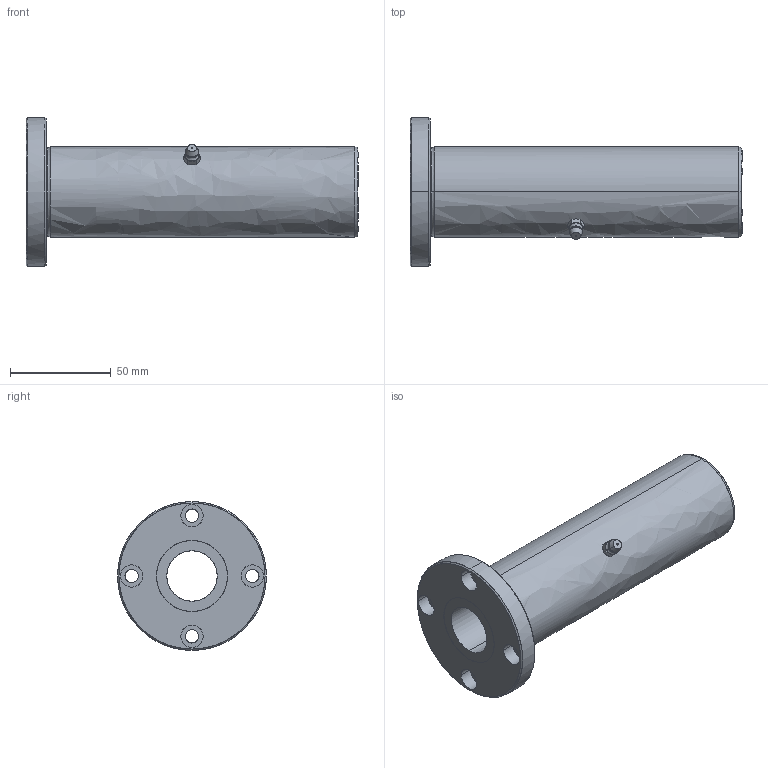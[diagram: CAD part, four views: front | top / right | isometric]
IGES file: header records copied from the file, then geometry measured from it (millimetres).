
Global section: file name: No Iges File Name specified; native system: AutoDesk Inventor R10; preprocessor: AutoDesk Inventor Iges Exporter R10; author: No Author specified; organization: No Organization specified; date: 20101211.161806; units: millimetre
Bounding box: 165 x 74 x 74 mm (x, y, z)
Surface area: 45719.9 mm2 (no closed solid volume)
Topology: 0 solids, 0 shells, 83 faces, 553 edges, 551 vertices
Faces by surface type: bspline 83
